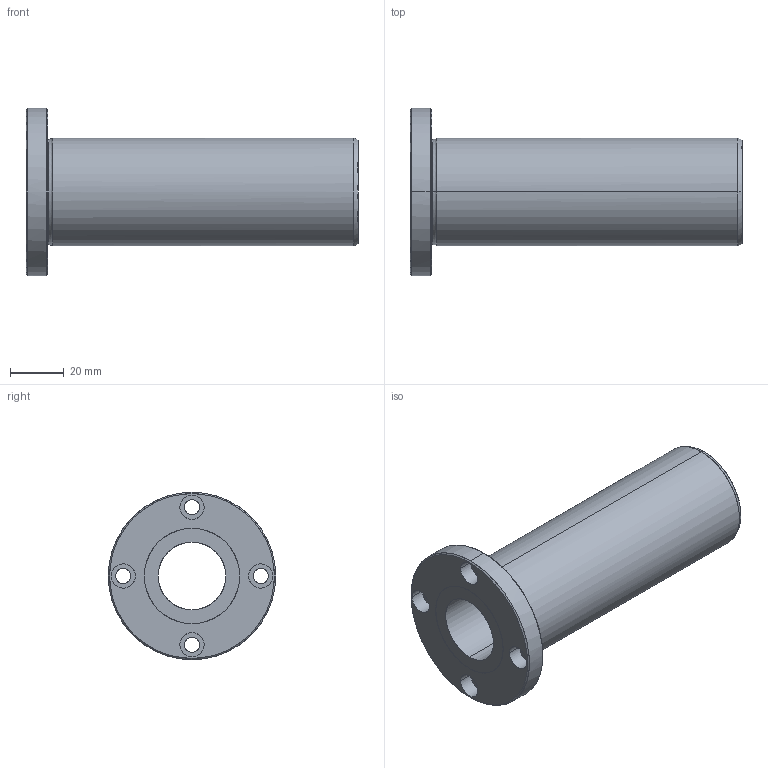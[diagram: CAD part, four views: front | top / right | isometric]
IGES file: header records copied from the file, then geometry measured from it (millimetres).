
Global section: file name: No Iges File Name specified; native system: AutoDesk Inventor R10; preprocessor: AutoDesk Inventor Iges Exporter R10; author: No Author specified; organization: No Organization specified; date: 20101216.153908; units: millimetre
Bounding box: 123 x 62 x 62 mm (x, y, z)
Surface area: 31207.7 mm2 (no closed solid volume)
Topology: 0 solids, 0 shells, 45 faces, 320 edges, 320 vertices
Faces by surface type: bspline 45
